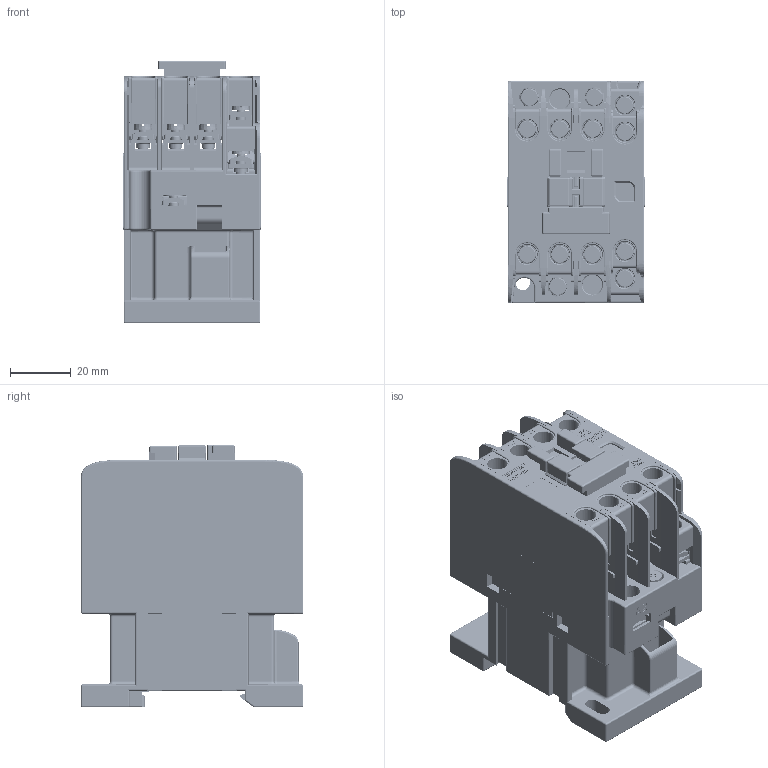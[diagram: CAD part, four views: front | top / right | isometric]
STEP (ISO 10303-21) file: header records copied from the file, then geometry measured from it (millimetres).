
FILE_DESCRIPTION (( 'STEP AP214' ), '1' );
FILE_NAME ('tengen_1N_TGC1_3P_0911-1811(A.1).STEP', '2026-01-30T10:10:36', ( '' ), ( '' ), 'SwSTEP 2.0', 'SolidWorks 2024', '' );
FILE_SCHEMA (( 'AUTOMOTIVE_DESIGN' ));
Length unit declared in the file: millimetre
Products named in the file (122): 8TZD_969_3002_AF11.stp; 8TZD_557_1167_AF0.stp; 8TZD_600_3001_AF38.stp; 8TZD_282_1197_AF84.stp; 8TZD_600_3002_AF64.stp; 8TZD_600_3002_AF45.stp; 8TZD_732_1086_AF0.stp; 8TZD_104_1090_AF0.stp; 8TZD_969_3002_AF9.stp; 5TZD_557_1038_AF1_ASM.stp; 5TZD_557_1016_AF1_ASM.stp; 8TZD_600_3002_AF38.stp; 8TZD_600_3001_AF57.stp; 8TZD_600_3001_AF45.stp; 8TZD_600_3002_AF60.stp; 8TZD_600_3001_AF54.stp; 8TZD_557_1167_AF2.stp; 8TZD_548_3001.stp; 5TZD_557_1018_AF1_ASM.stp; tengen_1N_TGC1_3P_0911-1811(A.1).stp; 8TZD_600_3002_AF39.stp; 5TZD_557_1016_AF4_ASM.stp; 8TZD_600_3002_AF55.stp; 3GB845-004.stp; 8TZD_600_3001_AF44.stp; 8TZD_600_3001_AF35.stp; 8TZD_600_3001_AF51.stp; 8TZD_600_3002_AF59.stp; 8TZD_600_3002_AF42.stp; 8TZD_600_3001_AF34.stp; 8TZD_600_3002_AF37.stp; 8TZD_282_1197_AF67.stp; 8TZD_600_3001_AF65.stp; 8TZD_600_3001_AF47.stp; 8TZD_600_3002_AF40.stp; 8TZD_557_1167_AF4.stp; 8TZD_128_1049_AF1.stp; 8TZD_600_3002_AF49.stp; 8TZD_600_3002_AF53.stp; 8TZD_600_3001_AF62.stp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
Assembly tree (136 placements, depth 6):
  tengen_1N_TGC1_3P_0911-1811(A.1)
    tengen_1N_TGC1_3P_0911-1811(A.1).stp
      5TZD_022_1047_1-16_AF0_ASM.stp
        5TZD_520_1081_1-14_AF0_ASM.stp
          8TZD_732_1086_AF0.stp
          8TZD_516_1057_AF0.stp
          8TZD_516_1056.stp
        5TZD_612_3002_AF0_ASM.stp
          8TZD_600_3002_AF33.stp
          8TZD_600_3002_AF34.stp
          8TZD_600_3002_AF35.stp
          8TZD_600_3002_AF36.stp
          8TZD_600_3002_AF37.stp
          8TZD_600_3002_AF38.stp
          8TZD_600_3002_AF39.stp
          8TZD_600_3002_AF40.stp
          8TZD_600_3002_AF41.stp
          8TZD_600_3002_AF42.stp
          8TZD_600_3002_AF43.stp
          8TZD_600_3002_AF44.stp
          8TZD_600_3002_AF45.stp
          8TZD_600_3002_AF46.stp
          8TZD_600_3002_AF47.stp
          8TZD_600_3002_AF48.stp
          8TZD_600_3002_AF49.stp
          8TZD_600_3002_AF50.stp
          8TZD_600_3002_AF51.stp
          8TZD_600_3002_AF52.stp
          8TZD_600_3002_AF53.stp
          8TZD_600_3002_AF54.stp
          8TZD_600_3002_AF55.stp
          8TZD_600_3002_AF56.stp
          8TZD_600_3002_AF57.stp
          8TZD_600_3002_AF58.stp
          8TZD_600_3002_AF59.stp
          8TZD_600_3002_AF60.stp
          8TZD_600_3002_AF61.stp
          8TZD_600_3002_AF62.stp
          8TZD_600_3002_AF63.stp
          8TZD_600_3002_AF64.stp
          8TZD_600_3002_AF65.stp
          8TZD_969_3002_AF8.stp
          8TZD_969_3002_AF9.stp
          8TZD_548_3001.stp  x2
        8TZD_022_1076_AF0.stp
        8TZD_128_1049_AF0.stp
        8TZD_128_1049_AF1.stp
        8TZD_261_1035.stp
        8TZD_282_1191.stp
        3ZBW-1-002_5.stp  x3
      5TZD_024_1212_1-4_AF0_ASM.stp
        5TZD_557_1016_AF0_ASM.stp
          8TZD_557_1167_AF0.stp
        5TZD_557_1016_AF1_ASM.stp
          8TZD_557_1167_AF1.stp
        5TZD_557_1016_AF2_ASM.stp
          8TZD_557_1167_AF2.stp
        5TZD_557_1016_AF3_ASM.stp
          8TZD_557_1167_AF3.stp
        5TZD_557_1016_AF4_ASM.stp
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Bounding box: 45.1 x 73 x 86.25 mm (x, y, z)
Volume: 73898.8 mm3; surface area: 143719.6 mm2
Topology: 130 solids, 190 shells, 13468 faces, 36664 edges, 23659 vertices
Faces by surface type: plane 9517, cylinder 3019, torus 285, bspline 270, cone 201, sphere 176
Entity records: 420673 total; most frequent: CARTESIAN_POINT 101578, ORIENTED_EDGE 67102, DIRECTION 62333, EDGE_CURVE 33581, LINE 26799, VECTOR 26799, VERTEX_POINT 21803, AXIS2_PLACEMENT_3D 17767
